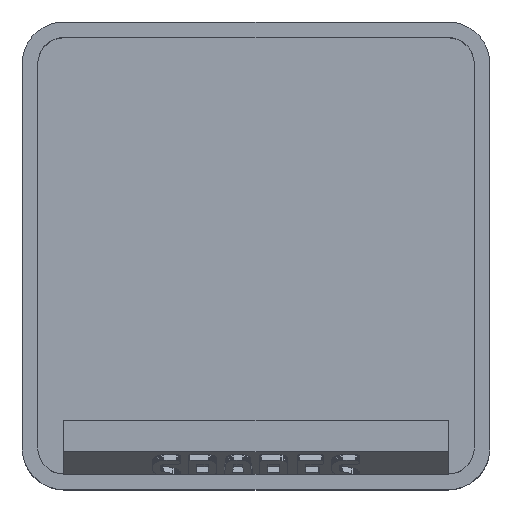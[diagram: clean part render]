
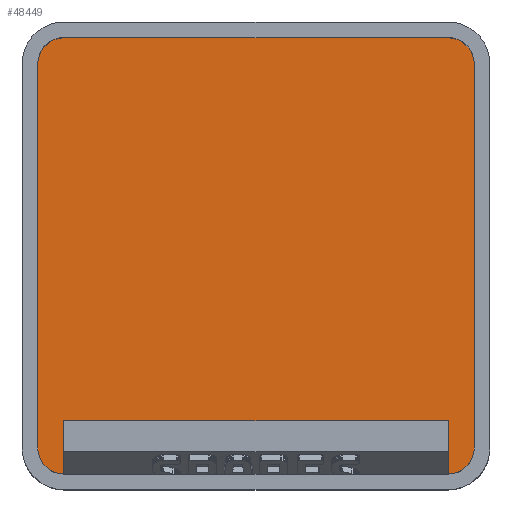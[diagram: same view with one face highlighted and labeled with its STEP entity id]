
A CAD part, top view. The second image highlights one B-rep face of the part: STEP entity #48449.
In plain terms, the highlighted planar face has unit normal (0, 0, 1).
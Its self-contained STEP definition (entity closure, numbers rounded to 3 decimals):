
#912 = PLANE('',#913);
#913 = AXIS2_PLACEMENT_3D('',#914,#915,#916);
#914 = CARTESIAN_POINT('',(-19.6,0.,21.));
#915 = DIRECTION('',(-1.,0.,0.));
#916 = DIRECTION('',(-0.,-1.,-0.));
#940 = CYLINDRICAL_SURFACE('',#941,2.35);
#941 = AXIS2_PLACEMENT_3D('',#942,#943,#944);
#942 = CARTESIAN_POINT('',(-17.25,17.25,5.95));
#943 = DIRECTION('',(-0.,-0.,1.));
#944 = DIRECTION('',(-1.,0.,0.));
#967 = PLANE('',#968);
#968 = AXIS2_PLACEMENT_3D('',#969,#970,#971);
#969 = CARTESIAN_POINT('',(0.,19.6,21.));
#970 = DIRECTION('',(0.,1.,0.));
#971 = DIRECTION('',(-1.,0.,0.));
#995 = CYLINDRICAL_SURFACE('',#996,2.35);
#996 = AXIS2_PLACEMENT_3D('',#997,#998,#999);
#997 = CARTESIAN_POINT('',(17.25,17.25,5.95));
#998 = DIRECTION('',(-0.,-0.,1.));
#999 = DIRECTION('',(-1.,0.,0.));
#1022 = PLANE('',#1023);
#1023 = AXIS2_PLACEMENT_3D('',#1024,#1025,#1026);
#1024 = CARTESIAN_POINT('',(19.6,0.,21.));
#1025 = DIRECTION('',(1.,0.,0.));
#1026 = DIRECTION('',(-0.,1.,0.));
#1050 = CYLINDRICAL_SURFACE('',#1051,2.35);
#1051 = AXIS2_PLACEMENT_3D('',#1052,#1053,#1054);
#1052 = CARTESIAN_POINT('',(17.25,-17.25,5.95));
#1053 = DIRECTION('',(-0.,-0.,1.));
#1054 = DIRECTION('',(-1.,0.,0.));
#1103 = CYLINDRICAL_SURFACE('',#1104,2.35);
#1104 = AXIS2_PLACEMENT_3D('',#1105,#1106,#1107);
#1105 = CARTESIAN_POINT('',(-17.25,-17.25,5.95));
#1106 = DIRECTION('',(-0.,-0.,1.));
#1107 = DIRECTION('',(-1.,0.,0.));
#17763 = EDGE_CURVE('',#17764,#17766,#17768,.T.);
#17764 = VERTEX_POINT('',#17765);
#17765 = CARTESIAN_POINT('',(-19.6,-17.25,5.95));
#17766 = VERTEX_POINT('',#17767);
#17767 = CARTESIAN_POINT('',(-19.6,17.25,5.95));
#17768 = SURFACE_CURVE('',#17769,(#17773,#17780),.PCURVE_S1.);
#17769 = LINE('',#17770,#17771);
#17770 = CARTESIAN_POINT('',(-19.6,0.,5.95));
#17771 = VECTOR('',#17772,1.);
#17772 = DIRECTION('',(0.,1.,0.));
#17773 = PCURVE('',#912,#17774);
#17774 = DEFINITIONAL_REPRESENTATION('',(#17775),#17779);
#17775 = LINE('',#17776,#17777);
#17776 = CARTESIAN_POINT('',(0.,-15.05));
#17777 = VECTOR('',#17778,1.);
#17778 = DIRECTION('',(-1.,0.));
#17779 = ( GEOMETRIC_REPRESENTATION_CONTEXT(2) 
PARAMETRIC_REPRESENTATION_CONTEXT() REPRESENTATION_CONTEXT('2D SPACE',''
  ) );
#17780 = PCURVE('',#17781,#17786);
#17781 = PLANE('',#17782);
#17782 = AXIS2_PLACEMENT_3D('',#17783,#17784,#17785);
#17783 = CARTESIAN_POINT('',(-17.25,-17.25,5.95));
#17784 = DIRECTION('',(0.,0.,-1.));
#17785 = DIRECTION('',(-1.,0.,0.));
#17786 = DEFINITIONAL_REPRESENTATION('',(#17787),#17791);
#17787 = LINE('',#17788,#17789);
#17788 = CARTESIAN_POINT('',(2.35,17.25));
#17789 = VECTOR('',#17790,1.);
#17790 = DIRECTION('',(0.,1.));
#17791 = ( GEOMETRIC_REPRESENTATION_CONTEXT(2) 
PARAMETRIC_REPRESENTATION_CONTEXT() REPRESENTATION_CONTEXT('2D SPACE',''
  ) );
#17838 = EDGE_CURVE('',#17839,#17764,#17841,.T.);
#17839 = VERTEX_POINT('',#17840);
#17840 = CARTESIAN_POINT('',(-17.25,-19.6,5.95));
#17841 = SURFACE_CURVE('',#17842,(#17847,#17854),.PCURVE_S1.);
#17842 = CIRCLE('',#17843,2.35);
#17843 = AXIS2_PLACEMENT_3D('',#17844,#17845,#17846);
#17844 = CARTESIAN_POINT('',(-17.25,-17.25,5.95));
#17845 = DIRECTION('',(0.,0.,-1.));
#17846 = DIRECTION('',(-1.,0.,0.));
#17847 = PCURVE('',#1103,#17848);
#17848 = DEFINITIONAL_REPRESENTATION('',(#17849),#17853);
#17849 = LINE('',#17850,#17851);
#17850 = CARTESIAN_POINT('',(6.283,0.));
#17851 = VECTOR('',#17852,1.);
#17852 = DIRECTION('',(-1.,0.));
#17853 = ( GEOMETRIC_REPRESENTATION_CONTEXT(2) 
PARAMETRIC_REPRESENTATION_CONTEXT() REPRESENTATION_CONTEXT('2D SPACE',''
  ) );
#17854 = PCURVE('',#17781,#17855);
#17855 = DEFINITIONAL_REPRESENTATION('',(#17856),#17860);
#17856 = CIRCLE('',#17857,2.35);
#17857 = AXIS2_PLACEMENT_2D('',#17858,#17859);
#17858 = CARTESIAN_POINT('',(0.,0.));
#17859 = DIRECTION('',(1.,0.));
#17860 = ( GEOMETRIC_REPRESENTATION_CONTEXT(2) 
PARAMETRIC_REPRESENTATION_CONTEXT() REPRESENTATION_CONTEXT('2D SPACE',''
  ) );
#17878 = PLANE('',#17879);
#17879 = AXIS2_PLACEMENT_3D('',#17880,#17881,#17882);
#17880 = CARTESIAN_POINT('',(0.,-19.6,21.));
#17881 = DIRECTION('',(0.,-1.,0.));
#17882 = DIRECTION('',(1.,0.,0.));
#17965 = EDGE_CURVE('',#17966,#17968,#17970,.T.);
#17966 = VERTEX_POINT('',#17967);
#17967 = CARTESIAN_POINT('',(19.6,-17.25,5.95));
#17968 = VERTEX_POINT('',#17969);
#17969 = CARTESIAN_POINT('',(17.25,-19.6,5.95));
#17970 = SURFACE_CURVE('',#17971,(#17976,#17983),.PCURVE_S1.);
#17971 = CIRCLE('',#17972,2.35);
#17972 = AXIS2_PLACEMENT_3D('',#17973,#17974,#17975);
#17973 = CARTESIAN_POINT('',(17.25,-17.25,5.95));
#17974 = DIRECTION('',(0.,0.,-1.));
#17975 = DIRECTION('',(-1.,0.,0.));
#17976 = PCURVE('',#1050,#17977);
#17977 = DEFINITIONAL_REPRESENTATION('',(#17978),#17982);
#17978 = LINE('',#17979,#17980);
#17979 = CARTESIAN_POINT('',(6.283,0.));
#17980 = VECTOR('',#17981,1.);
#17981 = DIRECTION('',(-1.,0.));
#17982 = ( GEOMETRIC_REPRESENTATION_CONTEXT(2) 
PARAMETRIC_REPRESENTATION_CONTEXT() REPRESENTATION_CONTEXT('2D SPACE',''
  ) );
#17983 = PCURVE('',#17781,#17984);
#17984 = DEFINITIONAL_REPRESENTATION('',(#17985),#17989);
#17985 = CIRCLE('',#17986,2.35);
#17986 = AXIS2_PLACEMENT_2D('',#17987,#17988);
#17987 = CARTESIAN_POINT('',(-34.5,0.));
#17988 = DIRECTION('',(1.,0.));
#17989 = ( GEOMETRIC_REPRESENTATION_CONTEXT(2) 
PARAMETRIC_REPRESENTATION_CONTEXT() REPRESENTATION_CONTEXT('2D SPACE',''
  ) );
#18063 = EDGE_CURVE('',#17966,#18064,#18066,.T.);
#18064 = VERTEX_POINT('',#18065);
#18065 = CARTESIAN_POINT('',(19.6,17.25,5.95));
#18066 = SURFACE_CURVE('',#18067,(#18071,#18078),.PCURVE_S1.);
#18067 = LINE('',#18068,#18069);
#18068 = CARTESIAN_POINT('',(19.6,0.,5.95));
#18069 = VECTOR('',#18070,1.);
#18070 = DIRECTION('',(0.,1.,0.));
#18071 = PCURVE('',#1022,#18072);
#18072 = DEFINITIONAL_REPRESENTATION('',(#18073),#18077);
#18073 = LINE('',#18074,#18075);
#18074 = CARTESIAN_POINT('',(0.,-15.05));
#18075 = VECTOR('',#18076,1.);
#18076 = DIRECTION('',(1.,0.));
#18077 = ( GEOMETRIC_REPRESENTATION_CONTEXT(2) 
PARAMETRIC_REPRESENTATION_CONTEXT() REPRESENTATION_CONTEXT('2D SPACE',''
  ) );
#18078 = PCURVE('',#17781,#18079);
#18079 = DEFINITIONAL_REPRESENTATION('',(#18080),#18084);
#18080 = LINE('',#18081,#18082);
#18081 = CARTESIAN_POINT('',(-36.85,17.25));
#18082 = VECTOR('',#18083,1.);
#18083 = DIRECTION('',(0.,1.));
#18084 = ( GEOMETRIC_REPRESENTATION_CONTEXT(2) 
PARAMETRIC_REPRESENTATION_CONTEXT() REPRESENTATION_CONTEXT('2D SPACE',''
  ) );
#18111 = EDGE_CURVE('',#18112,#18064,#18114,.T.);
#18112 = VERTEX_POINT('',#18113);
#18113 = CARTESIAN_POINT('',(17.25,19.6,5.95));
#18114 = SURFACE_CURVE('',#18115,(#18120,#18127),.PCURVE_S1.);
#18115 = CIRCLE('',#18116,2.35);
#18116 = AXIS2_PLACEMENT_3D('',#18117,#18118,#18119);
#18117 = CARTESIAN_POINT('',(17.25,17.25,5.95));
#18118 = DIRECTION('',(0.,0.,-1.));
#18119 = DIRECTION('',(-1.,0.,0.));
#18120 = PCURVE('',#995,#18121);
#18121 = DEFINITIONAL_REPRESENTATION('',(#18122),#18126);
#18122 = LINE('',#18123,#18124);
#18123 = CARTESIAN_POINT('',(6.283,0.));
#18124 = VECTOR('',#18125,1.);
#18125 = DIRECTION('',(-1.,0.));
#18126 = ( GEOMETRIC_REPRESENTATION_CONTEXT(2) 
PARAMETRIC_REPRESENTATION_CONTEXT() REPRESENTATION_CONTEXT('2D SPACE',''
  ) );
#18127 = PCURVE('',#17781,#18128);
#18128 = DEFINITIONAL_REPRESENTATION('',(#18129),#18133);
#18129 = CIRCLE('',#18130,2.35);
#18130 = AXIS2_PLACEMENT_2D('',#18131,#18132);
#18131 = CARTESIAN_POINT('',(-34.5,34.5));
#18132 = DIRECTION('',(1.,0.));
#18133 = ( GEOMETRIC_REPRESENTATION_CONTEXT(2) 
PARAMETRIC_REPRESENTATION_CONTEXT() REPRESENTATION_CONTEXT('2D SPACE',''
  ) );
#18161 = EDGE_CURVE('',#18162,#18112,#18164,.T.);
#18162 = VERTEX_POINT('',#18163);
#18163 = CARTESIAN_POINT('',(-17.25,19.6,5.95));
#18164 = SURFACE_CURVE('',#18165,(#18169,#18176),.PCURVE_S1.);
#18165 = LINE('',#18166,#18167);
#18166 = CARTESIAN_POINT('',(0.,19.6,5.95));
#18167 = VECTOR('',#18168,1.);
#18168 = DIRECTION('',(1.,0.,0.));
#18169 = PCURVE('',#967,#18170);
#18170 = DEFINITIONAL_REPRESENTATION('',(#18171),#18175);
#18171 = LINE('',#18172,#18173);
#18172 = CARTESIAN_POINT('',(0.,-15.05));
#18173 = VECTOR('',#18174,1.);
#18174 = DIRECTION('',(-1.,0.));
#18175 = ( GEOMETRIC_REPRESENTATION_CONTEXT(2) 
PARAMETRIC_REPRESENTATION_CONTEXT() REPRESENTATION_CONTEXT('2D SPACE',''
  ) );
#18176 = PCURVE('',#17781,#18177);
#18177 = DEFINITIONAL_REPRESENTATION('',(#18178),#18182);
#18178 = LINE('',#18179,#18180);
#18179 = CARTESIAN_POINT('',(-17.25,36.85));
#18180 = VECTOR('',#18181,1.);
#18181 = DIRECTION('',(-1.,0.));
#18182 = ( GEOMETRIC_REPRESENTATION_CONTEXT(2) 
PARAMETRIC_REPRESENTATION_CONTEXT() REPRESENTATION_CONTEXT('2D SPACE',''
  ) );
#18210 = EDGE_CURVE('',#17766,#18162,#18211,.T.);
#18211 = SURFACE_CURVE('',#18212,(#18217,#18224),.PCURVE_S1.);
#18212 = CIRCLE('',#18213,2.35);
#18213 = AXIS2_PLACEMENT_3D('',#18214,#18215,#18216);
#18214 = CARTESIAN_POINT('',(-17.25,17.25,5.95));
#18215 = DIRECTION('',(0.,0.,-1.));
#18216 = DIRECTION('',(-1.,0.,0.));
#18217 = PCURVE('',#940,#18218);
#18218 = DEFINITIONAL_REPRESENTATION('',(#18219),#18223);
#18219 = LINE('',#18220,#18221);
#18220 = CARTESIAN_POINT('',(6.283,0.));
#18221 = VECTOR('',#18222,1.);
#18222 = DIRECTION('',(-1.,0.));
#18223 = ( GEOMETRIC_REPRESENTATION_CONTEXT(2) 
PARAMETRIC_REPRESENTATION_CONTEXT() REPRESENTATION_CONTEXT('2D SPACE',''
  ) );
#18224 = PCURVE('',#17781,#18225);
#18225 = DEFINITIONAL_REPRESENTATION('',(#18226),#18230);
#18226 = CIRCLE('',#18227,2.35);
#18227 = AXIS2_PLACEMENT_2D('',#18228,#18229);
#18228 = CARTESIAN_POINT('',(0.,34.5));
#18229 = DIRECTION('',(1.,0.));
#18230 = ( GEOMETRIC_REPRESENTATION_CONTEXT(2) 
PARAMETRIC_REPRESENTATION_CONTEXT() REPRESENTATION_CONTEXT('2D SPACE',''
  ) );
#48449 = ADVANCED_FACE('',(#48450),#17781,.F.);
#48450 = FACE_BOUND('',#48451,.T.);
#48451 = EDGE_LOOP('',(#48452,#48453,#48454,#48475,#48476,#48477,#48478,
    #48479));
#48452 = ORIENTED_EDGE('',*,*,#17763,.F.);
#48453 = ORIENTED_EDGE('',*,*,#17838,.F.);
#48454 = ORIENTED_EDGE('',*,*,#48455,.T.);
#48455 = EDGE_CURVE('',#17839,#17968,#48456,.T.);
#48456 = SURFACE_CURVE('',#48457,(#48461,#48468),.PCURVE_S1.);
#48457 = LINE('',#48458,#48459);
#48458 = CARTESIAN_POINT('',(0.,-19.6,5.95));
#48459 = VECTOR('',#48460,1.);
#48460 = DIRECTION('',(1.,0.,0.));
#48461 = PCURVE('',#17781,#48462);
#48462 = DEFINITIONAL_REPRESENTATION('',(#48463),#48467);
#48463 = LINE('',#48464,#48465);
#48464 = CARTESIAN_POINT('',(-17.25,-2.35));
#48465 = VECTOR('',#48466,1.);
#48466 = DIRECTION('',(-1.,0.));
#48467 = ( GEOMETRIC_REPRESENTATION_CONTEXT(2) 
PARAMETRIC_REPRESENTATION_CONTEXT() REPRESENTATION_CONTEXT('2D SPACE',''
  ) );
#48468 = PCURVE('',#17878,#48469);
#48469 = DEFINITIONAL_REPRESENTATION('',(#48470),#48474);
#48470 = LINE('',#48471,#48472);
#48471 = CARTESIAN_POINT('',(0.,-15.05));
#48472 = VECTOR('',#48473,1.);
#48473 = DIRECTION('',(1.,0.));
#48474 = ( GEOMETRIC_REPRESENTATION_CONTEXT(2) 
PARAMETRIC_REPRESENTATION_CONTEXT() REPRESENTATION_CONTEXT('2D SPACE',''
  ) );
#48475 = ORIENTED_EDGE('',*,*,#17965,.F.);
#48476 = ORIENTED_EDGE('',*,*,#18063,.T.);
#48477 = ORIENTED_EDGE('',*,*,#18111,.F.);
#48478 = ORIENTED_EDGE('',*,*,#18161,.F.);
#48479 = ORIENTED_EDGE('',*,*,#18210,.F.);
